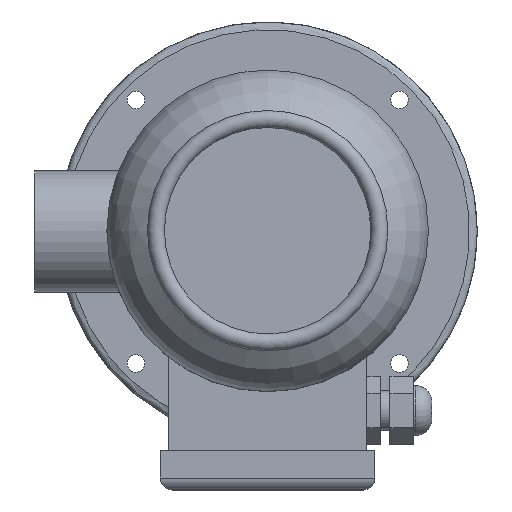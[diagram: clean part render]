
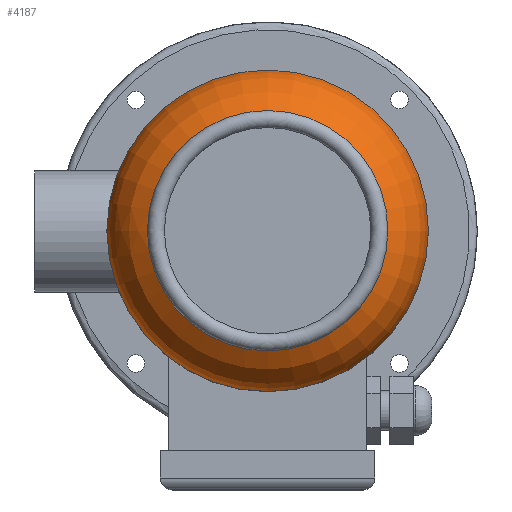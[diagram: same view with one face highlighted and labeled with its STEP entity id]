
A CAD part, top view. The second image highlights one B-rep face of the part: STEP entity #4187.
In plain terms, the highlighted toroidal (fillet/blend) face has major radius 37.539 mm and minor radius 32 mm.
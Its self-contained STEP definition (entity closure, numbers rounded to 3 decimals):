
#827=TOROIDAL_SURFACE('',#4517,37.539,32.);
#2107=ORIENTED_EDGE('',*,*,#2667,.T.);
#2108=ORIENTED_EDGE('',*,*,#2669,.T.);
#2667=EDGE_CURVE('',#3066,#3066,#3190,.F.);
#2669=EDGE_CURVE('',#3068,#3068,#3192,.T.);
#3066=VERTEX_POINT('',#9573);
#3068=VERTEX_POINT('',#9579);
#3190=CIRCLE('',#4512,68.997);
#3192=CIRCLE('',#4516,51.3);
#3557=EDGE_LOOP('',(#2107));
#3558=EDGE_LOOP('',(#2108));
#3923=FACE_BOUND('',#3557,.T.);
#3924=FACE_BOUND('',#3558,.T.);
#4187=ADVANCED_FACE('',(#3923,#3924),#827,.T.);
#4512=AXIS2_PLACEMENT_3D('',#9572,#5425,#5426);
#4516=AXIS2_PLACEMENT_3D('',#9578,#5433,#5434);
#4517=AXIS2_PLACEMENT_3D('',#9580,#5435,#5436);
#5425=DIRECTION('',(0.,0.,-1.));
#5426=DIRECTION('',(-1.,0.,0.));
#5433=DIRECTION('',(0.,0.,-1.));
#5434=DIRECTION('',(-1.,0.,0.));
#5435=DIRECTION('',(0.,0.,-1.));
#5436=DIRECTION('',(-1.,0.,0.));
#9572=CARTESIAN_POINT('',(0.,0.,355.558));
#9573=CARTESIAN_POINT('',(-68.997,0.,355.558));
#9578=CARTESIAN_POINT('',(0.,0.,378.586));
#9579=CARTESIAN_POINT('',(-51.3,0.,378.586));
#9580=CARTESIAN_POINT('',(0.,0.,349.696));
